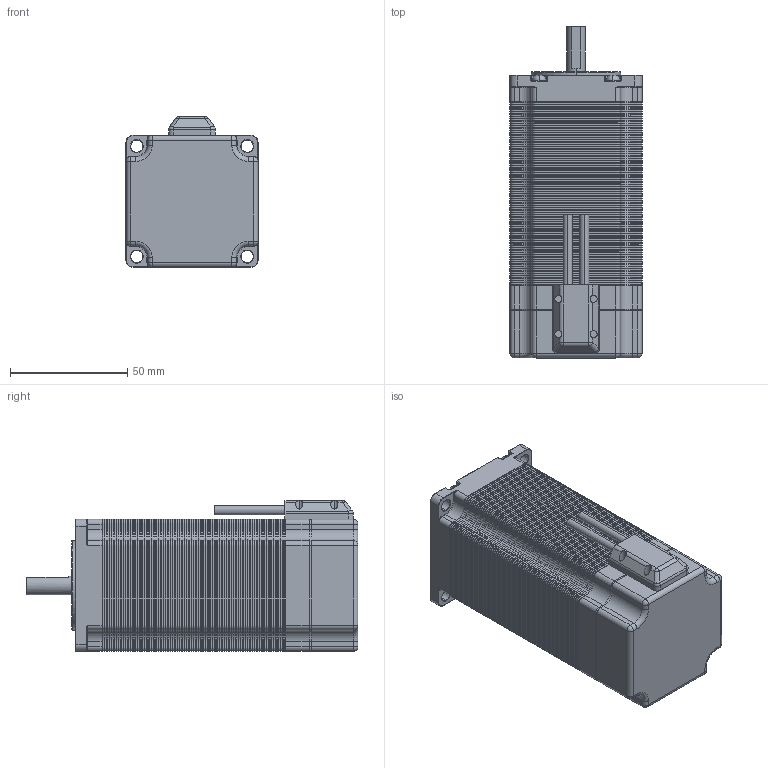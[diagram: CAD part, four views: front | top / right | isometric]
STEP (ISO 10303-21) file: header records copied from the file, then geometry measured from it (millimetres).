
FILE_DESCRIPTION (( 'STEP AP214' ), '1' );
FILE_NAME ('Nema 23 Stepper Motor length_102_mm_8mm_ENC.STEP', '2020-11-11T15:56:39', ( 'Moofasta' ), ( '' ), 'SwSTEP 2.0', 'SolidWorks 2020', '' );
FILE_SCHEMA (( 'AUTOMOTIVE_DESIGN' ));
Length unit declared in the file: millimetre
Products named in the file (1): Nema 23 Stepper Motor length_102_mm_8mm_ENC
Bounding box: 56.3 x 141.5 x 64.3 mm (x, y, z)
Volume: 350793.9 mm3; surface area: 484385.3 mm2
Topology: 86 solids, 87 shells, 6277 faces, 14297 edges, 8177 vertices
Faces by surface type: plane 3145, cone 1900, cylinder 1110, torus 94, sphere 20, bspline 8
Entity records: 238055 total; most frequent: DIRECTION 30981, CARTESIAN_POINT 29300, ORIENTED_EDGE 28542, EDGE_CURVE 14271, AXIS2_PLACEMENT_3D 10530, LINE 9921, VECTOR 9921, VERTEX_POINT 8177
